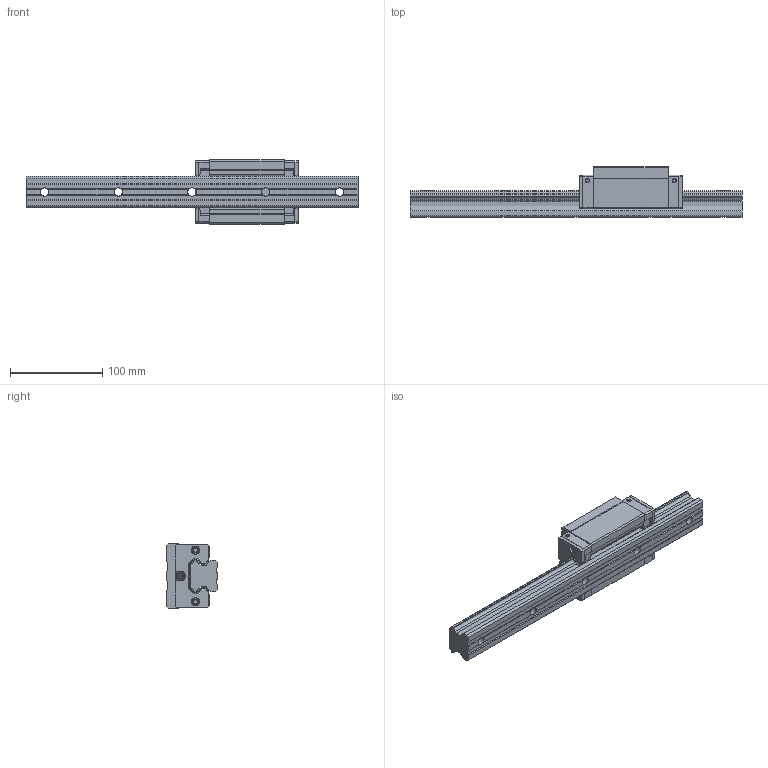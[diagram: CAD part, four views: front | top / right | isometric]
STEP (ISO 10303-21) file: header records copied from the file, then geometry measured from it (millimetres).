
FILE_DESCRIPTION( ( 'STEP AP214' ), '1' );
FILE_NAME( 'C:/Users/tu200/Desktop/賅筐葭/BSQ賅筐葭/VISIDATA/MAIL1/MCH35N.stp', '2020-03-26T11:28:56', ( ' ' ), ( ' ' ), 'XStep 1.0', 'VISICAD', ' ' );
FILE_SCHEMA( ( 'automotive_design' ) );
Length unit declared in the file: metre
Products named in the file (6): 1; 2; 3; 4; 5; 6
Bounding box: 360 x 55 x 70 mm (x, y, z)
Volume: 502741.4 mm3; surface area: 116758.6 mm2
Topology: 6 solids, 6 shells, 1424 faces, 4126 edges, 2782 vertices
Faces by surface type: plane 972, cylinder 256, bspline 176, extrusion 8, torus 8, cone 4
Full cylindrical faces by diameter (mm): 2 x2, 4.7 x4, 4.8 x4, 6.8 x6, 9 x9, 14 x5
Entity records: 69520 total; most frequent: CARTESIAN_POINT 22264, ORIENTED_EDGE 8138, DIRECTION 6450, EDGE_CURVE 4069, VERTEX_POINT 2759, VECTOR 2656, LINE 2648, AXIS2_PLACEMENT_3D 1897
